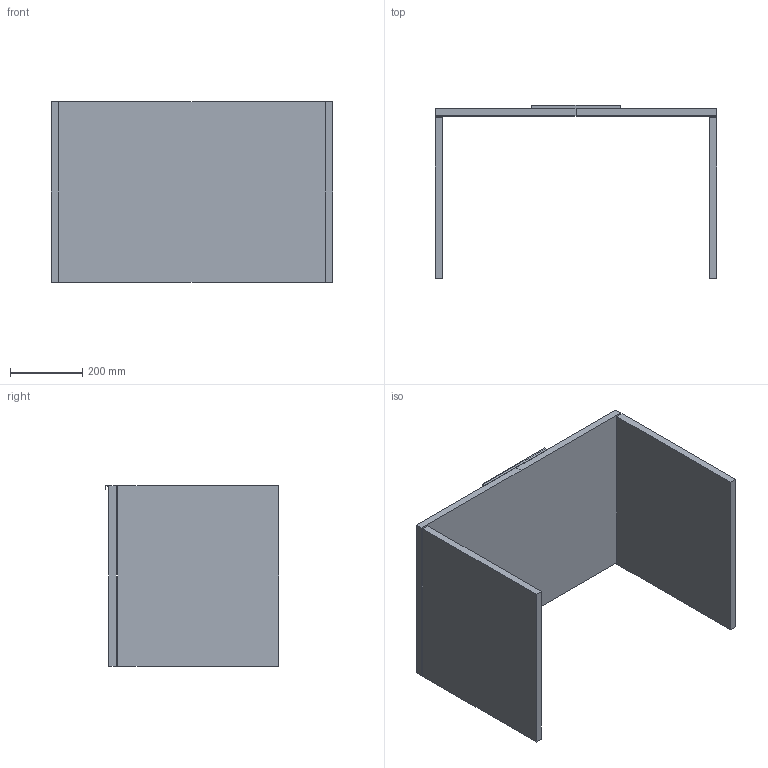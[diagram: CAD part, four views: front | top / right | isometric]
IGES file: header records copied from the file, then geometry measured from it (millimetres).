
Start section: START RECORD GO HERE.
Global section: file name: 6131.igs; native system: DASSAULT SYSTEMES CATIA V5 R19 - www.3ds.com; preprocessor: CATIA Version 5 Release 19 SP 5 ; author: gioge; organization: LAPTOP-G94B6G74; date: 20201003.151242; units: millimetre
Bounding box: 780 x 480 x 500 mm (x, y, z)
Surface area: 1806672 mm2 (no closed solid volume)
Topology: 0 solids, 0 shells, 28 faces, 120 edges, 120 vertices
Faces by surface type: plane 28
